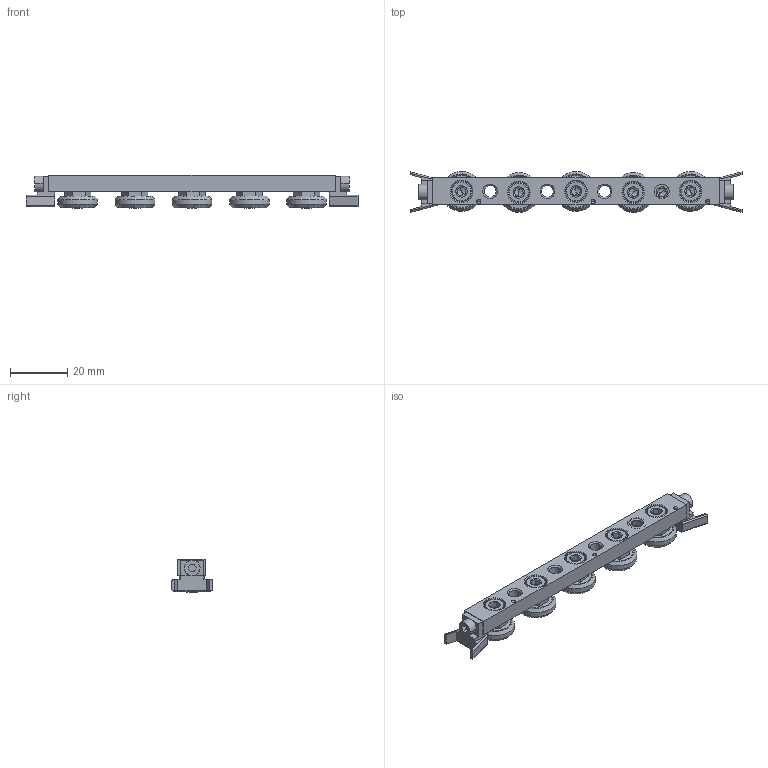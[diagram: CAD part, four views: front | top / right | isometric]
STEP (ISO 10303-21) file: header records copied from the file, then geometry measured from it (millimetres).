
FILE_DESCRIPTION (( 'STEP AP203' ), '1' );
FILE_NAME ('L1918.CSW18-100-2RSU.step', '2019-06-29T22:06:13', ( '' ), ( '' ), 'SwSTEP 2.0', 'SolidWorks 2017', '' );
FILE_SCHEMA (( 'CONFIG_CONTROL_DESIGN' ));
Length unit declared in the file: millimetre
Products named in the file (6): Part4; Part8; Part1_L1918.CSW18-100-2RSU; Part7; Part5; L1918.CSW18-100-2RSU
Assembly tree (16 placements, depth 2):
  L1918.CSW18-100-2RSU
    Part1_L1918.CSW18-100-2RSU
    Part8  x8
    Part4  x3
    Part5  x2
    Part7  x2
Bounding box: 116 x 14.32 x 11.54 mm (x, y, z)
Volume: 8897.7 mm3; surface area: 8973.4 mm2
Topology: 16 solids, 16 shells, 513 faces, 1190 edges, 729 vertices
Faces by surface type: plane 251, cone 140, cylinder 96, torus 26
Entity records: 7055 total; most frequent: CARTESIAN_POINT 1141, DIRECTION 1124, ORIENTED_EDGE 964, EDGE_CURVE 482, AXIS2_PLACEMENT_3D 432, VERTEX_POINT 308, LINE 260, VECTOR 260
